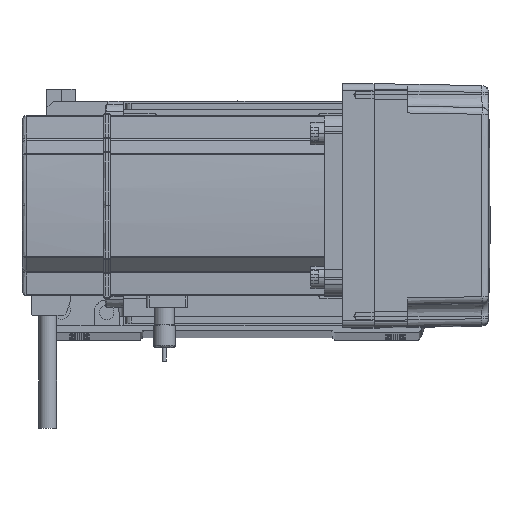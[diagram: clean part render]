
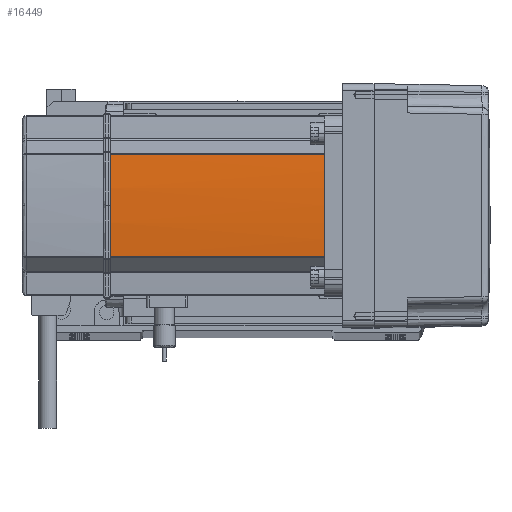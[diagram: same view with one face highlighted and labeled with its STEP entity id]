
A CAD part, top view. The second image highlights one B-rep face of the part: STEP entity #16449.
In plain terms, the highlighted cylindrical face has radius 270 mm (diameter 540 mm), a partial arc.
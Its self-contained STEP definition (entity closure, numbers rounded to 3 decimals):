
#1354 = LINE ( 'NONE', #35655, #37603 ) ;
#1591 = CIRCLE ( 'NONE', #54185, 270. ) ;
#3780 = CARTESIAN_POINT ( 'NONE',  ( 230., 0., 134. ) ) ;
#4555 = VECTOR ( 'NONE', #10740, 1000. ) ;
#4862 = CYLINDRICAL_SURFACE ( 'NONE', #56558, 270. ) ;
#6402 = CARTESIAN_POINT ( 'NONE',  ( -39.042, 22.724, 0. ) ) ;
#8205 = VERTEX_POINT ( 'NONE', #38391 ) ;
#8509 = EDGE_CURVE ( 'NONE', #8205, #20192, #1354, .T. ) ;
#9226 = CARTESIAN_POINT ( 'NONE',  ( -39.042, 22.724, 39. ) ) ;
#9410 = CARTESIAN_POINT ( 'NONE',  ( -39.042, -22.724, 134. ) ) ;
#10740 = DIRECTION ( 'NONE',  ( 0., 0., -1. ) ) ;
#11984 = AXIS2_PLACEMENT_3D ( 'NONE', #3780, #17839, #55202 ) ;
#12104 = DIRECTION ( 'NONE',  ( 0., 0., 1. ) ) ;
#14438 = ORIENTED_EDGE ( 'NONE', *, *, #8509, .T. ) ;
#15562 = CARTESIAN_POINT ( 'NONE',  ( 230., 0., 134. ) ) ;
#16449 = ADVANCED_FACE ( 'NONE', ( #56584 ), #4862, .T. ) ;
#17151 = LINE ( 'NONE', #6402, #4555 ) ;
#17839 = DIRECTION ( 'NONE',  ( 0., 0., -1. ) ) ;
#19051 = EDGE_CURVE ( 'NONE', #20192, #21914, #30469, .T. ) ;
#20192 = VERTEX_POINT ( 'NONE', #9410 ) ;
#20290 = DIRECTION ( 'NONE',  ( 1., 0., 0. ) ) ;
#20339 = DIRECTION ( 'NONE',  ( 0., 0., 1. ) ) ;
#21914 = VERTEX_POINT ( 'NONE', #43704 ) ;
#23215 = CARTESIAN_POINT ( 'NONE',  ( -39.042, 22.724, 134. ) ) ;
#25085 = DIRECTION ( 'NONE',  ( 1., 0., 0. ) ) ;
#25727 = EDGE_CURVE ( 'NONE', #46886, #56666, #17151, .T. ) ;
#28517 = AXIS2_PLACEMENT_3D ( 'NONE', #15562, #48602, #20290 ) ;
#29124 = ORIENTED_EDGE ( 'NONE', *, *, #25727, .T. ) ;
#29211 = DIRECTION ( 'NONE',  ( 0., 0., -1. ) ) ;
#29636 = CARTESIAN_POINT ( 'NONE',  ( 230., 0., 0. ) ) ;
#30469 = CIRCLE ( 'NONE', #11984, 270. ) ;
#31266 = EDGE_CURVE ( 'NONE', #21914, #46886, #51804, .T. ) ;
#35655 = CARTESIAN_POINT ( 'NONE',  ( -39.042, -22.724, 0. ) ) ;
#37603 = VECTOR ( 'NONE', #12104, 1000. ) ;
#38391 = CARTESIAN_POINT ( 'NONE',  ( -39.042, -22.724, 39. ) ) ;
#38904 = DIRECTION ( 'NONE',  ( 1., 0., 0. ) ) ;
#39303 = EDGE_CURVE ( 'NONE', #8205, #56666, #1591, .T. ) ;
#43704 = CARTESIAN_POINT ( 'NONE',  ( -40., 0., 134. ) ) ;
#46886 = VERTEX_POINT ( 'NONE', #23215 ) ;
#48602 = DIRECTION ( 'NONE',  ( 0., 0., -1. ) ) ;
#48632 = EDGE_LOOP ( 'NONE', ( #51475, #59123, #29124, #54373, #14438 ) ) ;
#51475 = ORIENTED_EDGE ( 'NONE', *, *, #19051, .T. ) ;
#51804 = CIRCLE ( 'NONE', #28517, 270. ) ;
#54185 = AXIS2_PLACEMENT_3D ( 'NONE', #57515, #29211, #38904 ) ;
#54373 = ORIENTED_EDGE ( 'NONE', *, *, #39303, .F. ) ;
#55202 = DIRECTION ( 'NONE',  ( 1., 0., 0. ) ) ;
#56558 = AXIS2_PLACEMENT_3D ( 'NONE', #29636, #20339, #25085 ) ;
#56584 = FACE_OUTER_BOUND ( 'NONE', #48632, .T. ) ;
#56666 = VERTEX_POINT ( 'NONE', #9226 ) ;
#57515 = CARTESIAN_POINT ( 'NONE',  ( 230., 0., 39. ) ) ;
#59123 = ORIENTED_EDGE ( 'NONE', *, *, #31266, .T. ) ;
